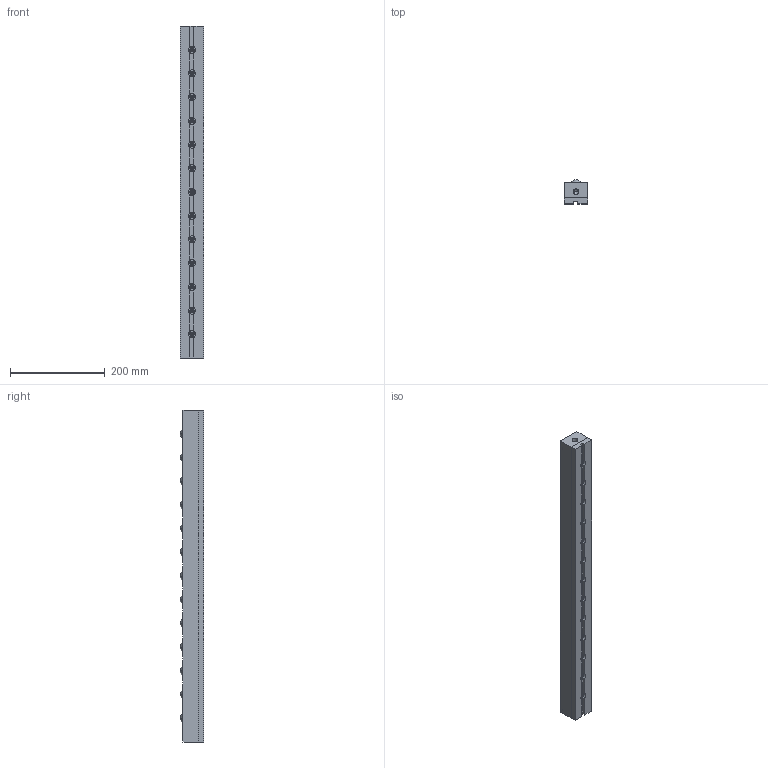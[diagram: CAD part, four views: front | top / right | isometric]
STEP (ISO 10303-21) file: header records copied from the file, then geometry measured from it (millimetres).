
FILE_DESCRIPTION (( 'STEP AP203' ), '1' );
FILE_NAME ('PVL55SH-13.STEP', '2016-01-25T01:17:21', ( '' ), ( '' ), 'SwSTEP 2.0', 'SolidWorks 2013', '' );
FILE_SCHEMA (( 'CONFIG_CONTROL_DESIGN' ));
Length unit declared in the file: millimetre
Products named in the file (1): PVL55SH-13
Bounding box: 49 x 50 x 700 mm (x, y, z)
Volume: 1481407.8 mm3; surface area: 241017.3 mm2
Topology: 2 solids, 2 shells, 576 faces, 1244 edges, 832 vertices
Faces by surface type: cylinder 330, plane 216, sphere 26, cone 4
Entity records: 16161 total; most frequent: DIRECTION 3164, CARTESIAN_POINT 2651, ORIENTED_EDGE 2484, AXIS2_PLACEMENT_3D 1345, EDGE_CURVE 1242, VERTEX_POINT 832, CIRCLE 768, EDGE_LOOP 746
